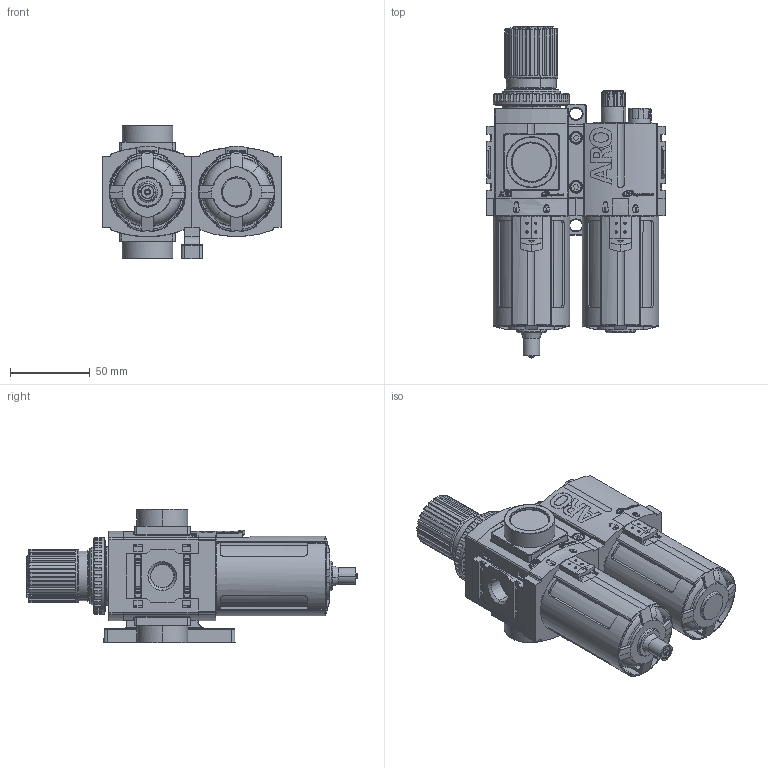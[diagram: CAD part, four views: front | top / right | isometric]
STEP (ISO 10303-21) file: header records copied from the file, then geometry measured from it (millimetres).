
FILE_DESCRIPTION(/* description */ (''),/* implementation_level */ '2;1');
FILE_NAME(/* name */ 'C382X1-60X_01',/* time_stamp */ '2009-02-04T11:04:51-05:00',/* author */ (''),/* organization */ (''),/* preprocessor_version */ 'ST-DEVELOPER v9',/* originating_system */ 'UGS - NX 4.0',/* authorisation */ '');
FILE_SCHEMA (('AUTOMOTIVE_DESIGN { 1 0 10303 214 1 1 1 1 }'));
Length unit declared in the file: inch
Products named in the file (1): szee0781jj5j
Bounding box: 112 x 208.46 x 84.1 mm (x, y, z)
Volume: 658962.2 mm3; surface area: 128409.8 mm2
Topology: 4 solids, 5 shells, 3733 faces, 9702 edges, 6188 vertices
Faces by surface type: plane 1809, cylinder 1047, bspline 257, extrusion 243, torus 176, cone 136, sphere 57, revolution 8
Full cylindrical faces by diameter (mm): 3.3 x1
Entity records: 169591 total; most frequent: CARTESIAN_POINT 63017, ORIENTED_EDGE 19366, DIRECTION 12211, EDGE_CURVE 9683, VERTEX_POINT 6193, B_SPLINE_CURVE_WITH_KNOTS 4906, VECTOR 4321, LINE 4078
